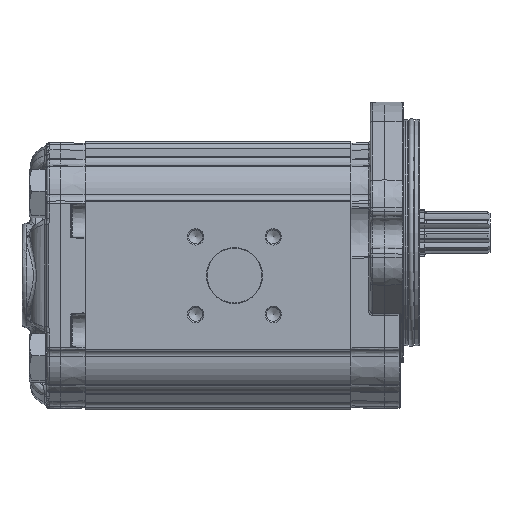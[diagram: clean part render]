
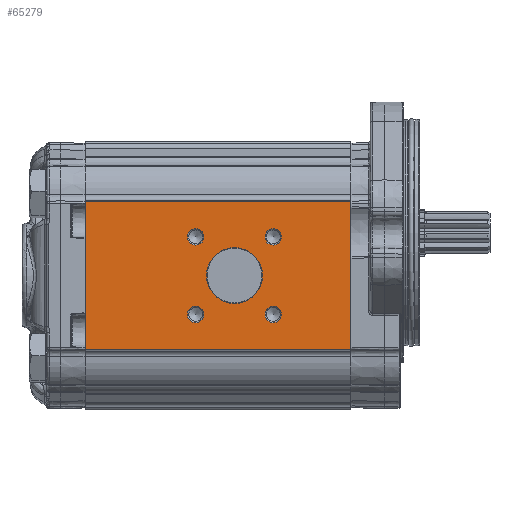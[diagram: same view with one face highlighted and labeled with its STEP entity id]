
A CAD part, left-side view. The second image highlights one B-rep face of the part: STEP entity #65279.
In plain terms, the highlighted planar face has unit normal (-1, 0, 0).
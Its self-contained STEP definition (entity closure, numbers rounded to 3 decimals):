
#4386=PLANE('',#69630);
#5854=LINE('',#111537,#8101);
#5855=LINE('',#111540,#8102);
#5856=LINE('',#111542,#8103);
#5857=LINE('',#111544,#8104);
#8101=VECTOR('',#78391,1000.);
#8102=VECTOR('',#78392,1000.);
#8103=VECTOR('',#78393,1000.);
#8104=VECTOR('',#78394,1000.);
#16623=ORIENTED_EDGE('',*,*,#26716,.T.);
#16624=ORIENTED_EDGE('',*,*,#26717,.T.);
#16625=ORIENTED_EDGE('',*,*,#26718,.T.);
#16626=ORIENTED_EDGE('',*,*,#26719,.T.);
#16627=ORIENTED_EDGE('',*,*,#26720,.T.);
#16628=ORIENTED_EDGE('',*,*,#26721,.F.);
#16629=ORIENTED_EDGE('',*,*,#26722,.F.);
#16630=ORIENTED_EDGE('',*,*,#26723,.T.);
#16631=ORIENTED_EDGE('',*,*,#26724,.T.);
#26716=EDGE_CURVE('',#32149,#32149,#35561,.F.);
#26717=EDGE_CURVE('',#32150,#32150,#35562,.F.);
#26718=EDGE_CURVE('',#32151,#32151,#35563,.F.);
#26719=EDGE_CURVE('',#32152,#32152,#35564,.F.);
#26720=EDGE_CURVE('',#32153,#32153,#35565,.F.);
#26721=EDGE_CURVE('',#32154,#32155,#5854,.T.);
#26722=EDGE_CURVE('',#32156,#32154,#5855,.T.);
#26723=EDGE_CURVE('',#32156,#32157,#5856,.T.);
#26724=EDGE_CURVE('',#32157,#32155,#5857,.T.);
#32149=VERTEX_POINT('',#111528);
#32150=VERTEX_POINT('',#111530);
#32151=VERTEX_POINT('',#111532);
#32152=VERTEX_POINT('',#111534);
#32153=VERTEX_POINT('',#111536);
#32154=VERTEX_POINT('',#111538);
#32155=VERTEX_POINT('',#111539);
#32156=VERTEX_POINT('',#111541);
#32157=VERTEX_POINT('',#111543);
#35561=CIRCLE('',#69631,10.2);
#35562=CIRCLE('',#69632,3.);
#35563=CIRCLE('',#69633,3.);
#35564=CIRCLE('',#69634,3.);
#35565=CIRCLE('',#69635,3.);
#38031=EDGE_LOOP('',(#16623));
#38032=EDGE_LOOP('',(#16624));
#38033=EDGE_LOOP('',(#16625));
#38034=EDGE_LOOP('',(#16626));
#38035=EDGE_LOOP('',(#16627));
#38036=EDGE_LOOP('',(#16628,#16629,#16630,#16631));
#41317=FACE_BOUND('',#38031,.T.);
#41318=FACE_BOUND('',#38032,.T.);
#41319=FACE_BOUND('',#38033,.T.);
#41320=FACE_BOUND('',#38034,.T.);
#41321=FACE_BOUND('',#38035,.T.);
#41322=FACE_BOUND('',#38036,.T.);
#65279=ADVANCED_FACE('',(#41317,#41318,#41319,#41320,#41321,#41322),#4386,
 .T.);
#69630=AXIS2_PLACEMENT_3D('',#111526,#78379,#78380);
#69631=AXIS2_PLACEMENT_3D('',#111527,#78381,#78382);
#69632=AXIS2_PLACEMENT_3D('',#111529,#78383,#78384);
#69633=AXIS2_PLACEMENT_3D('',#111531,#78385,#78386);
#69634=AXIS2_PLACEMENT_3D('',#111533,#78387,#78388);
#69635=AXIS2_PLACEMENT_3D('',#111535,#78389,#78390);
#78379=DIRECTION('',(-1.,0.,0.));
#78380=DIRECTION('',(0.,0.,1.));
#78381=DIRECTION('',(-1.,0.,0.));
#78382=DIRECTION('',(0.,0.,1.));
#78383=DIRECTION('',(-1.,0.,0.));
#78384=DIRECTION('',(0.,0.,1.));
#78385=DIRECTION('',(-1.,0.,0.));
#78386=DIRECTION('',(0.,0.,1.));
#78387=DIRECTION('',(-1.,0.,0.));
#78388=DIRECTION('',(0.,0.,1.));
#78389=DIRECTION('',(-1.,0.,0.));
#78390=DIRECTION('',(0.,0.,1.));
#78391=DIRECTION('',(0.,0.,-1.));
#78392=DIRECTION('',(0.,-1.,0.));
#78393=DIRECTION('',(0.,0.,-1.));
#78394=DIRECTION('',(0.,-1.,0.));
#111526=CARTESIAN_POINT('',(-43.,97.,27.048));
#111527=CARTESIAN_POINT('',(-43.,42.5,0.));
#111528=CARTESIAN_POINT('',(-43.,42.5,10.2));
#111529=CARTESIAN_POINT('',(-43.,56.642,-14.142));
#111530=CARTESIAN_POINT('',(-43.,56.642,-11.142));
#111531=CARTESIAN_POINT('',(-43.,56.642,14.142));
#111532=CARTESIAN_POINT('',(-43.,56.642,17.142));
#111533=CARTESIAN_POINT('',(-43.,28.358,14.142));
#111534=CARTESIAN_POINT('',(-43.,28.358,17.142));
#111535=CARTESIAN_POINT('',(-43.,28.358,-14.142));
#111536=CARTESIAN_POINT('',(-43.,28.358,-11.142));
#111537=CARTESIAN_POINT('',(-43.,0.,27.048));
#111538=CARTESIAN_POINT('',(-43.,0.,27.048));
#111539=CARTESIAN_POINT('',(-43.,0.,-27.048));
#111540=CARTESIAN_POINT('',(-43.,97.,27.048));
#111541=CARTESIAN_POINT('',(-43.,97.,27.048));
#111542=CARTESIAN_POINT('',(-43.,97.,27.048));
#111543=CARTESIAN_POINT('',(-43.,97.,-27.048));
#111544=CARTESIAN_POINT('',(-43.,97.,-27.048));
